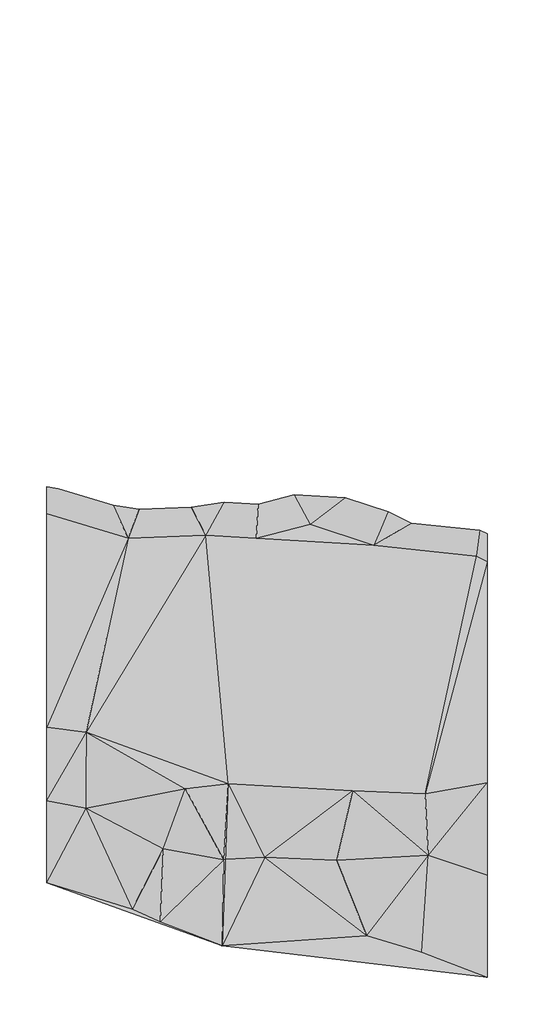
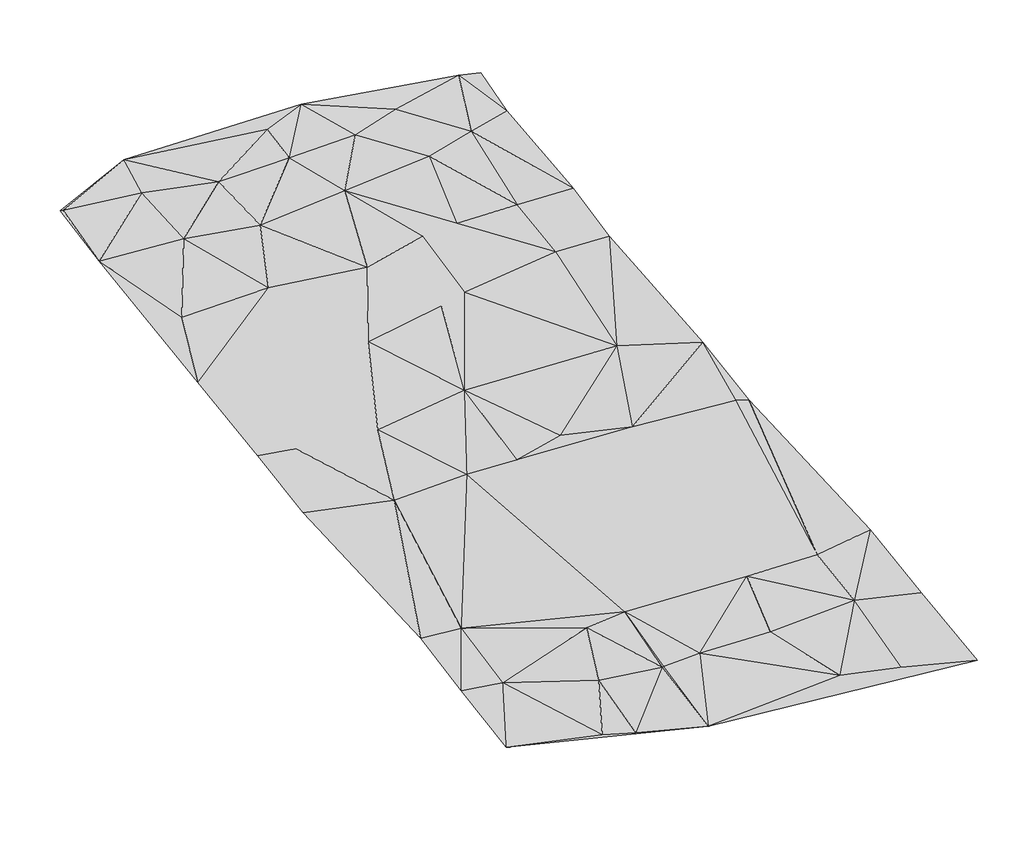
# One storey: 1 proxy.
"""IFC4 building model written with IfcOpenShell, lengths in millimetres."""

from ifc_helpers import new_model, si_unit, origin, place, context, project, spatial, triangles, element, save

model = new_model("IFC4")

# Units and contexts
model_context = context("Model", 3, world=origin())
ifc_project = project(units=[si_unit("LENGTHUNIT", "METRE", prefix="MILLI")], contexts=[model_context])

# Site, building, storey
site = spatial("IfcSite", under=ifc_project)
building = spatial("IfcBuilding", under=site)
storey = spatial("IfcBuildingStorey", under=building, Name="Nível 1", Elevation=39624.0)

# Proxy
placement = place(None, origin())
element("IfcBuildingElementProxy", 1, Name="Building Element Proxy", at=placement, inside=storey, context=model_context, shape_type="Tessellation", body=[
    triangles([(-62243.7728027, 53243.8337769, 47548.8), (-62243.7728027, 22377.7503662, 43281.6), (-62243.7728027, -771.0763355, 39624.0), (-62243.7728027, -60904.8545288, 36880.8), (-62243.7728027, -81540.1019531, 32918.4), (-62243.7728027, -104552.5856689, 29260.8), (-12766.2335541, -122237.5992188, 29260.8), (61621.56427, -131211.1166016, 29260.8), (61621.56427, -102440.6773682, 32918.4), (61621.56427, -76459.6492676, 36880.8), (61621.56427, -14243.4038544, 39624.0), (61621.56427, 9422.3324295, 43281.6), (61621.56427, 57097.421814, 47548.8), (61621.56427, 75571.5778931, 51206.4), (61621.56427, 109545.0158203, 54864.0), (61621.56427, 123010.2497314, 58521.6), (56339.6355103, 124985.5431152, 58521.6), (12298.110965, 129455.428418, 62179.2), (-39455.6056274, 130570.8859131, 62179.2), (-62243.7728027, 123582.2241211, 58521.6), (-62243.7728027, 103603.5924316, 54864.0), (-62243.7728027, 79137.578833, 51206.4), (-61517.3520264, 123310.5476807, 58521.6), (-53795.0838501, 76006.1932251, 51206.4), (-52258.9218018, 20316.5412964, 43281.6), (-51180.6992432, -83614.7009033, 32918.4), (-51020.011377, -62197.598877, 36880.8), (-40267.244458, 120038.7008789, 58521.6), (-39293.196936, -7638.2320267, 39624.0), (-38518.1186646, 101467.8530273, 54864.0), (-38096.4211487, -111983.6669678, 29260.8), (-30255.8043823, -115580.8985596, 29260.8), (-29866.0816589, 17180.4152802, 43281.6), (-29375.9673889, -95079.1360107, 32918.4), (-28099.5848328, 76276.1953491, 51206.4), (-23175.996991, -78147.8345947, 36880.8), (-20600.368158, 114492.2766357, 58521.6), (-18596.7904541, 96899.1923584, 54864.0), (-17418.4507507, -6866.0233475, 39624.0), (-15454.5380676, 47102.9016357, 47548.8), (-12400.6919128, -98173.3750488, 32918.4), (-11891.7706512, -98027.5513916, 32918.4), (-11121.9967072, -76715.8801392, 36880.8), (-3224.7412468, -7689.8852692, 39624.0), (-1778.8443283, 21444.5422119, 43281.6), (-1576.3165741, 71544.1539551, 51206.4), (-922.572757, -97450.4238281, 32918.4), (-797.7987597, 124128.6279785, 62179.2), (241.1804458, 114649.4112305, 58521.6), (8853.4671524, 51629.83927, 47548.8), (11920.2700745, -3824.9700165, 39624.0), (17064.3967804, 53982.4445068, 47548.8), (17616.8002716, 76313.6581787, 51206.4), (19434.4009552, -98292.930542, 32918.4), (20101.5799988, 115171.9188721, 58521.6), (23848.7698792, -78671.7654053, 36880.8), (27773.3373047, -119426.8591553, 29260.8), (28080.0604431, 77097.4754517, 51206.4), (29835.7951355, -9730.8124374, 39624.0), (34300.2737915, 101938.2894287, 54864.0), (34686.150238, 119888.4216797, 58521.6), (41879.7785889, 19055.7252319, 43281.6), (43232.9099487, -124111.5034424, 29260.8), (44205.7435913, -79514.2814209, 36880.8), (45109.8977051, -96873.5102051, 32918.4), (45601.6630371, 76424.3118896, 51206.4), (46201.8357056, 57902.6889404, 47548.8), (49165.0641357, 106229.0042725, 54864.0), (58650.7549072, -12735.144754, 39624.0), (7851.7410873, 99418.7408936, 54864.0)], [[5, 6, 26], [27, 26, 36], [31, 26, 6], [6, 32, 31], [5, 26, 27], [3, 4, 29], [27, 29, 4], [39, 29, 27], [4, 5, 27], [25, 3, 29], [34, 26, 31], [32, 7, 41], [7, 32, 6], [41, 42, 43], [42, 41, 7], [43, 42, 47], [32, 41, 34], [43, 27, 36], [34, 41, 36], [39, 43, 44], [39, 27, 43], [56, 44, 43], [33, 29, 39], [41, 43, 36], [36, 26, 34], [42, 7, 47], [32, 34, 31], [45, 39, 44], [1, 2, 25], [30, 21, 24], [1, 35, 24], [2, 3, 25], [1, 24, 22], [20, 21, 23], [28, 23, 21], [28, 21, 30], [20, 23, 19], [21, 22, 24], [19, 23, 28], [40, 1, 25], [40, 35, 1], [40, 33, 45], [40, 50, 46], [50, 40, 45], [33, 39, 45], [40, 46, 35], [28, 37, 19], [37, 28, 30], [38, 37, 30], [38, 35, 46], [49, 37, 38], [38, 30, 35], [24, 35, 30], [19, 37, 48], [38, 46, 70], [25, 33, 40], [25, 29, 33], [44, 51, 45], [47, 54, 56], [54, 47, 57], [64, 59, 56], [54, 65, 56], [47, 7, 57], [59, 44, 56], [62, 52, 45], [45, 51, 62], [59, 62, 51], [12, 62, 59], [44, 59, 51], [50, 45, 52], [65, 54, 57], [50, 52, 46], [65, 64, 56], [65, 63, 9], [8, 9, 63], [57, 7, 63], [65, 9, 10], [69, 12, 59], [69, 64, 11], [11, 12, 69], [10, 11, 64], [64, 65, 10], [69, 59, 64], [65, 57, 63], [7, 8, 63], [13, 62, 12], [53, 70, 46], [49, 38, 70], [53, 58, 70], [58, 53, 52], [52, 67, 58], [70, 58, 60], [48, 49, 18], [48, 37, 49], [61, 18, 55], [55, 18, 49], [55, 49, 70], [61, 55, 60], [70, 60, 55], [48, 18, 19], [58, 66, 60], [52, 53, 46], [66, 67, 14], [68, 60, 66], [13, 14, 67], [52, 62, 67], [66, 14, 68], [61, 68, 17], [61, 60, 68], [17, 15, 16], [15, 17, 68], [68, 14, 15], [61, 17, 18], [66, 58, 67], [62, 13, 67], [56, 43, 47]], closed=False),
])

save(model, "model.ifc")
